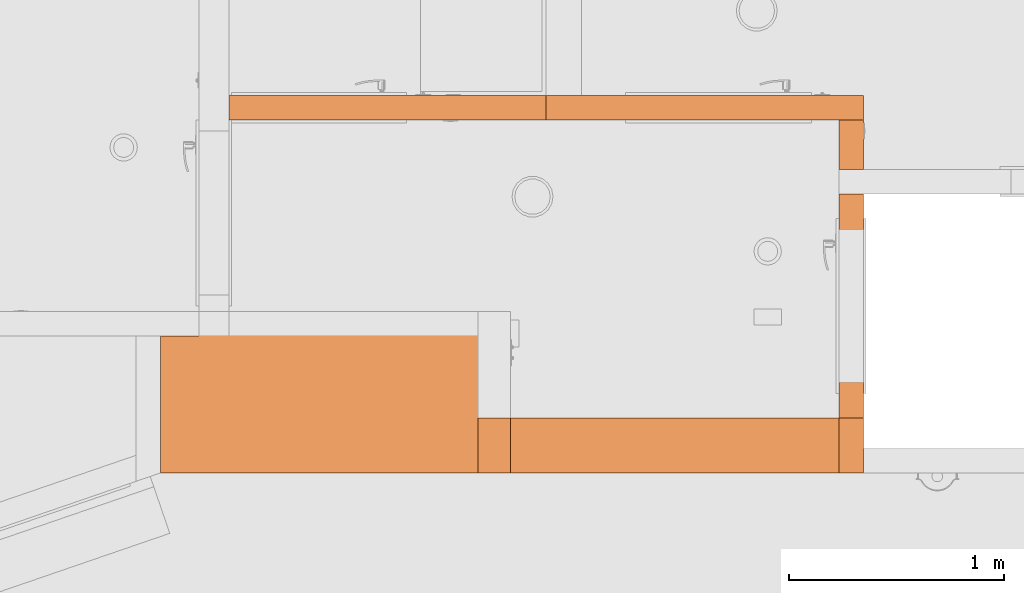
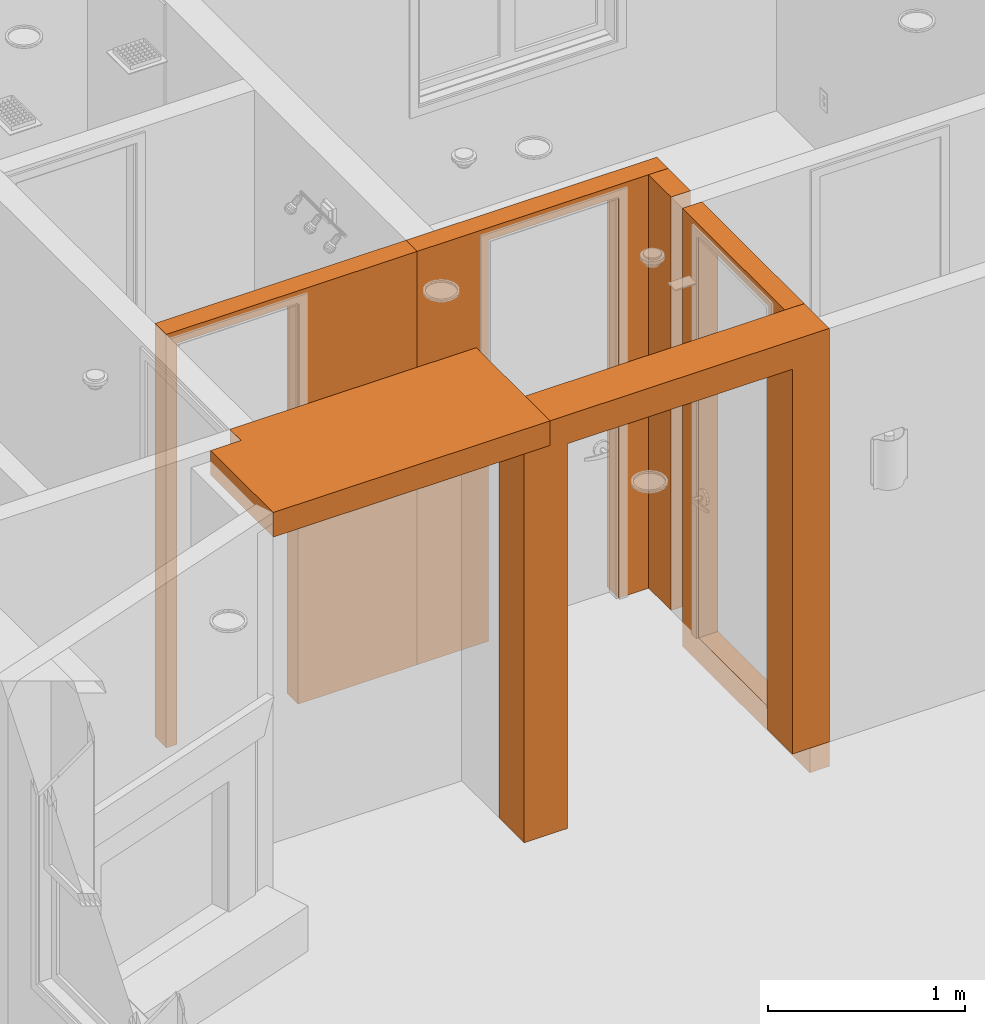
# One storey, part 41 of 48: 5 proxies.
"""IFC2X3 building model written with IfcOpenShell, lengths in inches."""

from ifc_helpers import new_model, entity, si_unit, converted_unit, derived_unit, money_unit, direction, frame, origin_with_axes, place, context, subcontext, project, spatial, faceted_brep, material, type_object, element, save


model = new_model("IFC2X3")

# Units and contexts
model_context = context("Model", 3, precision=0.00039370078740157, world=origin_with_axes(), true_north=direction((0.0, 1.0)))
plan_context = context("Plan", 3, precision=0.00039370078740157, world=origin_with_axes(), true_north=direction((0.0, 1.0)))
body_context = subcontext(model_context, "Body", "Model", "MODEL_VIEW")
ifc_project = project(units=[converted_unit("LENGTHUNIT", "INCH", entity("IfcPositiveLengthMeasure", 0.0254), si_unit("LENGTHUNIT", "METRE"), dimensions=[1, 0, 0, 0, 0, 0, 0]), converted_unit("AREAUNIT", "SQUARE_FOOT", entity("IfcPositiveLengthMeasure", 0.09290304), si_unit("AREAUNIT", "SQUARE_METRE"), dimensions=[2, 0, 0, 0, 0, 0, 0]), si_unit("PLANEANGLEUNIT", "RADIAN"), si_unit("SOLIDANGLEUNIT", "STERADIAN"), money_unit("USD"), converted_unit("TIMEUNIT", "Year", entity("IfcTimeMeasure", 31557600.0), si_unit("TIMEUNIT", "SECOND"), dimensions=[0, 0, 1, 0, 0, 0, 0]), si_unit("MASSUNIT", "GRAM", prefix="KILO"), si_unit("THERMODYNAMICTEMPERATUREUNIT", "DEGREE_CELSIUS"), si_unit("LUMINOUSINTENSITYUNIT", "LUMEN"), si_unit("ENERGYUNIT", "JOULE", prefix="MEGA"), derived_unit("SPECIFICHEATCAPACITYUNIT", [(si_unit("ENERGYUNIT", "JOULE"), 1), (si_unit("MASSUNIT", "GRAM", prefix="KILO"), -1), (si_unit("THERMODYNAMICTEMPERATUREUNIT", "KELVIN"), -1)])], contexts=[model_context, plan_context])

# Site, building, storey
site_placement = place(None, origin_with_axes())
site = spatial("IfcSite", under=ifc_project, at=site_placement, Name="Site", CompositionType="ELEMENT")
building_placement = place(site_placement, origin_with_axes())
building = spatial("IfcBuilding", under=site, at=building_placement, Name="Building", CompositionType="ELEMENT")
storey_placement = place(building_placement, origin_with_axes())
storey = spatial("IfcBuildingStorey", under=building, at=storey_placement, Name="First Floor", CompositionType="ELEMENT", Elevation=0.0)

# Proxies
ifc_material = material(Name="Generic - Structural")
building_element_proxy_type_1 = type_object("IfcBuildingElementProxyType", Name="Generic - Structural 4 1/2\"", PredefinedType="NOTDEFINED")
proxy_1_placement = place(storey_placement, frame((-57.49952807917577, 426.4999999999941, 0.0), z_axis=(0.0, 0.0, 1.0), x_axis=(1.0, 0.0, 0.0)))
element("IfcBuildingElementProxy", 1, at=proxy_1_placement, inside=storey, type_object=building_element_proxy_type_1, material=ifc_material, Name="SW - 057", context=body_context, shape_type="Brep", body=[
    faceted_brep([(16.49952807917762, 0.0, 97.99999999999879), (16.49952807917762, 0.0, 0.0), (0.0, 0.0, 0.0), (0.0, 0.0, 100.9999999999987), (57.99952807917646, 0.0, 100.9999999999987), (57.99952807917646, 0.0, 0.0), (46.49952807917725, 0.0, 0.0), (46.49952807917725, 0.0, 97.99999999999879), (16.49952807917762, -4.499999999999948, 97.99999999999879), (16.49952807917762, -4.499999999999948, 0.0), (0.0, -4.499999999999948, 0.0), (0.0, -4.499999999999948, 100.9999999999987), (57.99952807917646, -4.499999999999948, 100.9999999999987), (57.99952807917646, -4.499999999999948, 0.0), (46.49952807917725, -4.499999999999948, 0.0), (46.49952807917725, -4.499999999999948, 97.99999999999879)], [[[0, 1, 2, 3, 4, 5, 6, 7]], [[1, 0, 8, 9]], [[1, 9, 10, 2]], [[2, 10, 11, 3]], [[4, 3, 11, 12]], [[5, 4, 12, 13]], [[14, 6, 5, 13]], [[7, 6, 14, 15]], [[0, 7, 15, 8]], [[15, 14, 13, 12, 11, 10, 9, 8]]]),
])
proxy_2_placement = place(storey_placement, frame((-3.999999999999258, 357.4999999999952, -5.99999999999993), z_axis=(0.0, 0.0, 1.0), x_axis=(0.0, 1.0, 0.0)))
element("IfcBuildingElementProxy", 2, at=proxy_2_placement, inside=storey, type_object=building_element_proxy_type_1, material=ifc_material, Name="SW - 058", context=body_context, shape_type="Brep", body=[
    faceted_brep([(55.49999999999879, -4.49999999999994, 106.9999999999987), (55.49999868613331, -4.49999999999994, 5.99999999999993), (64.49999999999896, -4.49999999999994, 5.99999999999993), (64.49999999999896, -4.49999999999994, 106.9999999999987), (55.49999999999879, 0.0, 106.9999999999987), (55.49999868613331, 4.768376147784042e-06, 5.99999999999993), (64.49999999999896, 0.0, 5.99999999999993), (64.49999999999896, 0.0, 106.9999999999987)], [[[0, 1, 2, 3]], [[4, 5, 1, 0]], [[5, 6, 2, 1]], [[3, 2, 6, 7]], [[4, 0, 3, 7]], [[7, 6, 5, 4]]]),
    faceted_brep([(9.99999999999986, 0.0, 106.9999999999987), (50.99999999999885, 0.0, 106.9999999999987), (50.99999999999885, 0.0, 0.0), (0.0, 0.0, 0.0), (0.0, 0.0, 5.99999999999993), (9.99999999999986, 0.0, 5.99999999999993), (16.49630905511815, 0.0, 5.99999999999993), (44.49630905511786, 0.0, 5.99999999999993), (44.49630905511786, 0.0, 103.9999999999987), (16.49630905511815, 0.0, 103.9999999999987), (9.99999999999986, -4.49999999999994, 106.9999999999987), (50.99999999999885, -4.49999999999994, 106.9999999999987), (50.99999999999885, -4.49999999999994, 0.0), (0.0, -4.49999999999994, 0.0), (0.0, -4.49999999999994, 5.99999999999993), (9.99999999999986, -4.49999999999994, 5.99999999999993), (16.49630905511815, -4.499999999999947, 5.99999999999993), (44.49630905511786, -4.499999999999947, 5.99999999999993), (44.49630905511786, -4.49999999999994, 103.9999999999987), (16.49630905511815, -4.49999999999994, 103.9999999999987)], [[[0, 1, 2, 3, 4, 5], [6, 7, 8, 9]], [[1, 0, 10, 11]], [[2, 1, 11, 12]], [[3, 2, 12, 13]], [[13, 14, 4, 3]], [[4, 14, 15, 5]], [[5, 15, 10, 0]], [[16, 17, 7, 6]], [[17, 18, 8, 7]], [[18, 19, 9, 8]], [[19, 16, 6, 9]], [[14, 13, 12, 11, 10, 15], [16, 19, 18, 17]]]),
])
proxy_3_placement = place(storey_placement, frame((-120.9999999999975, 426.4999999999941, 0.0), z_axis=(0.0, 0.0, 1.0), x_axis=(1.0, 0.0, 0.0)))
element("IfcBuildingElementProxy", 3, at=proxy_3_placement, inside=storey, type_object=building_element_proxy_type_1, material=ifc_material, Name="SW - 057", context=body_context, shape_type="Brep", body=[
    faceted_brep([(7.99999999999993, 0.0, 97.99999999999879), (7.99999999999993, 0.0, 0.0), (5.499999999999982, 0.0, 0.0), (5.499999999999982, 0.0, 100.9999999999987), (63.50047192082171, 0.0, 100.9999999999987), (63.50047192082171, 0.0, 0.0), (35.99999999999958, 0.0, 0.0), (35.99999999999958, 0.0, 97.99999999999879), (7.99999999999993, -4.499999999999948, 97.99999999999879), (7.99999999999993, -4.499999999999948, 0.0), (5.499999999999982, -4.499999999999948, 0.0), (5.499999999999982, -4.499999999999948, 100.9999999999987), (63.50047192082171, -4.499999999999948, 100.9999999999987), (63.50047192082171, -4.499999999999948, 0.0), (35.99999999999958, -4.499999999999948, 0.0), (35.99999999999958, -4.499999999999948, 97.99999999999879)], [[[0, 1, 2, 3, 4, 5, 6, 7]], [[1, 0, 8, 9]], [[1, 9, 10, 2]], [[2, 10, 11, 3]], [[12, 4, 3, 11]], [[5, 4, 12, 13]], [[14, 6, 5, 13]], [[7, 6, 14, 15]], [[0, 7, 15, 8]], [[15, 14, 13, 12, 11, 10, 9, 8]]]),
])
building_element_proxy_type_2 = type_object("IfcBuildingElementProxyType", Name="Generic - Structural 10\"", PredefinedType="NOTDEFINED")
proxy_4_placement = place(storey_placement, frame((0.5000000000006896, 357.4999999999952, 0.0), z_axis=(0.0, 0.0, 1.0), x_axis=(-1.0, 0.0, 0.0)))
element("IfcBuildingElementProxy", 4, at=proxy_4_placement, inside=storey, type_object=building_element_proxy_type_2, material=ifc_material, Name="SW - 016", context=body_context, shape_type="Brep", body=[
    faceted_brep([(60.49422393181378, -9.99999999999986, 93.99999999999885), (60.49422393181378, -9.99999999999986, 0.0), (70.49999999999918, -9.99999999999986, 0.0), (70.49999999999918, -9.99999999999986, 94.99999999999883), (64.49999999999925, -9.99999999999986, 94.99999999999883), (64.49999999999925, -9.99999999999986, 100.9999999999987), (0.0, -9.99999999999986, 100.9999999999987), (0.0, -9.99999999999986, 0.0), (8.494223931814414, -9.99999999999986, 0.0), (8.494223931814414, -9.99999999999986, 93.99999999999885), (60.49422393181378, 0.0, 93.99999999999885), (60.49422393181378, 0.0, 0.0), (70.49999999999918, 0.0, 0.0), (70.49999999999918, 0.0, 94.99999999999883), (64.49999999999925, 0.0, 94.99999999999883), (64.49999999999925, 0.0, 100.9999999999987), (0.0, 0.0, 100.9999999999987), (0.0, 0.0, 0.0), (8.494223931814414, 0.0, 0.0), (8.494223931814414, 0.0, 93.99999999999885)], [[[0, 1, 2, 3, 4, 5, 6, 7, 8, 9]], [[1, 0, 10, 11]], [[1, 11, 12, 2]], [[12, 13, 3, 2]], [[14, 4, 3, 13]], [[14, 15, 5, 4]], [[6, 5, 15, 16]], [[6, 16, 17, 7]], [[18, 8, 7, 17]], [[9, 8, 18, 19]], [[0, 9, 19, 10]], [[19, 18, 17, 16, 15, 14, 13, 12, 11, 10]]]),
])
building_element_proxy_type_3 = type_object("IfcBuildingElementProxyType", Name="Generic - Structural 6\"", PredefinedType="NOTDEFINED")
proxy_5_placement = place(storey_placement, frame((-128.0000000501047, 382.4999996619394, 94.99999999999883), z_axis=(0.0, 0.0, 1.0), x_axis=(1.0, 0.0, 0.0)))
element("IfcBuildingElementProxy", 5, at=proxy_5_placement, inside=storey, type_object=building_element_proxy_type_3, material=ifc_material, Name="SLA - 003", context=body_context, shape_type="Brep", body=[
    faceted_brep([(0.0, 0.0, 5.99999999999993), (0.0, 0.0, 0.0), (-3.814703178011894e-05, -24.99999966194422, 0.0), (-3.814703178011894e-05, -24.99999966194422, 5.99999999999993), (7.000000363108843, 0.0, 5.99999999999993), (7.000000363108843, 0.0, 0.0), (7.000000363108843, 4.500000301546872, 0.0), (64.00000005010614, 4.500000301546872, 0.0), (64.00000005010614, -24.99999966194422, 0.0), (64.00000005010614, -24.99999966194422, 5.99999999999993), (64.00000005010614, 4.500000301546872, 5.99999999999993), (7.000000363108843, 4.500000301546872, 5.99999999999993)], [[[0, 1, 2, 3]], [[4, 5, 1, 0]], [[2, 1, 5, 6, 7, 8]], [[3, 2, 8, 9]], [[4, 0, 3, 9, 10, 11]], [[11, 6, 5, 4]], [[10, 7, 6, 11]], [[9, 8, 7, 10]]]),
])

save(model, "model.ifc")
